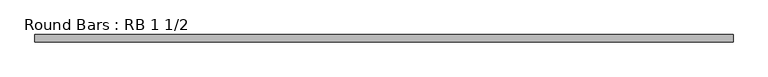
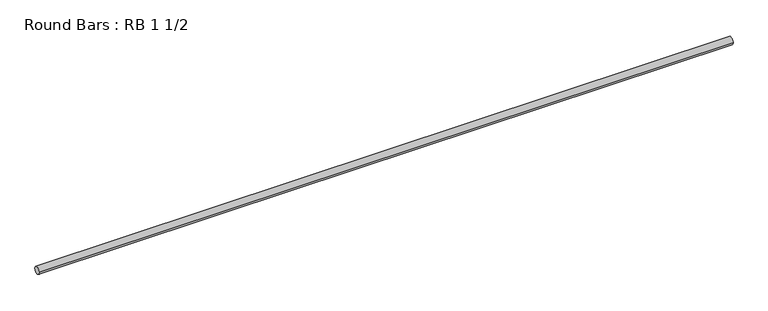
"""IFC4 building model written with IfcOpenShell, lengths in millimetres: member geometry, Round Bars : RB 1 1/2."""

from ifc_helpers import new_model, si_unit, point, frame, origin, origin_2d, place, context, project, spatial, circle_curve, trimmed, segment, composite_curve, outline, extrude, source, transform, mapped, element, save


def round_bars_rb_1_1_2_46b0ee6e(model_context):
    return source(origin(), model_context, "Body", "SweptSolid", [
        extrude(outline(composite_curve([segment(trimmed(circle_curve(origin_2d(), 19.05), [point((19.05, 0.0))], [point((-19.05, 0.0))], False, "CARTESIAN"), True, "CONTINUOUS"), segment(trimmed(circle_curve(origin_2d(), 19.05), [point((-19.05, 0.0))], [point((19.05, 0.0))], False, "CARTESIAN"), True, "CONTINUOUS")], self_intersect=False)), frame((-1788.1143766, 0.0, 0.0), z_axis=(1.0, 0.0, 0.0), x_axis=(0.0, 1.0, 0.0)), (0.0, 0.0, 1.0), 3576.2287533),
    ])


if __name__ == "__main__":
    model = new_model("IFC4")
    model_context = context("Model", 3, world=origin())
    ifc_project = project(units=[si_unit("LENGTHUNIT", "METRE", prefix="MILLI")], contexts=[model_context])
    site = spatial("IfcSite", under=ifc_project)
    building = spatial("IfcBuilding", under=site)
    placement = place(None, origin())
    round_bars_rb_1_1_2_shape = round_bars_rb_1_1_2_46b0ee6e(model_context)
    element("IfcMember", 1, ObjectType="Round Bars : RB 1 1/2", at=placement, inside=building, context=model_context, shape_type="MappedRepresentation", body=[
        mapped(round_bars_rb_1_1_2_shape, transform((0.0, 0.0, 0.0), x_axis=(1.0, 0.0, 0.0), y_axis=(0.0, 1.0, 0.0), z_axis=(0.0, 0.0, 1.0))),
    ])
    save(model, "model.ifc")
